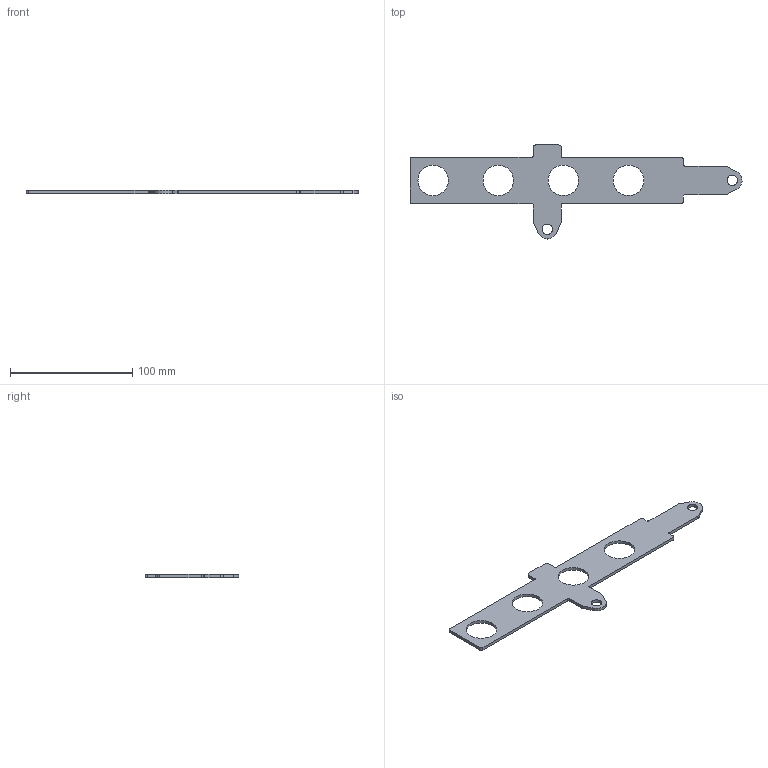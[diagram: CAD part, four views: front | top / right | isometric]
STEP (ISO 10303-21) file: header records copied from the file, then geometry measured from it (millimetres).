
FILE_DESCRIPTION((''),'2;1');
FILE_NAME('288085','2022-12-06T06:29:21',('vmorco'),(''),'CREO PARAMETRIC BY PTC INC, 2020454','CREO PARAMETRIC BY PTC INC, 2020454','');
FILE_SCHEMA(('AUTOMOTIVE_DESIGN { 1 0 10303 214 1 1 1 1 }'));
Length unit declared in the file: millimetre
Products named in the file (1): 288085
Bounding box: 271.97 x 77 x 2.5 mm (x, y, z)
Volume: 20649.2 mm3; surface area: 19102.1 mm2
Topology: 1 solids, 1 shells, 50 faces, 144 edges, 96 vertices
Faces by surface type: cylinder 30, plane 20
Entity records: 1763 total; most frequent: DIRECTION 304, CARTESIAN_POINT 292, ORIENTED_EDGE 288, EDGE_CURVE 144, AXIS2_PLACEMENT_3D 110, VERTEX_POINT 96, VECTOR 84, LINE 84
